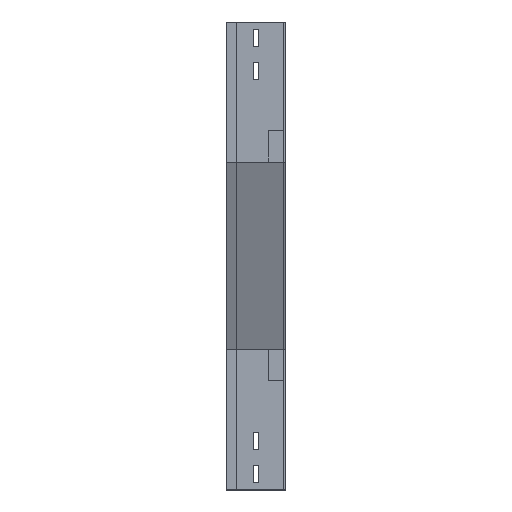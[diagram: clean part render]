
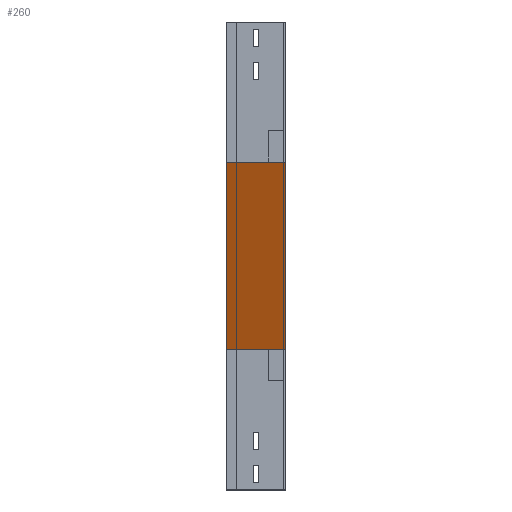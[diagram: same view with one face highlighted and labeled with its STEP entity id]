
A CAD part, left-side view. The second image highlights one B-rep face of the part: STEP entity #260.
In plain terms, the highlighted planar face has unit normal (-0.923, 0, -0.385).
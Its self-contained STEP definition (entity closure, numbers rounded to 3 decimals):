
#32 = VECTOR ( 'NONE', #247, 1000. ) ;
#247 = DIRECTION ( 'NONE',  ( 0.385, 0., -0.923 ) ) ;
#260 = ADVANCED_FACE ( 'NONE', ( #3321 ), #535, .F. ) ;
#262 = CARTESIAN_POINT ( 'NONE',  ( 0., 0., -180. ) ) ;
#296 = DIRECTION ( 'NONE',  ( 0.385, 0., -0.923 ) ) ;
#331 = ORIENTED_EDGE ( 'NONE', *, *, #2294, .F. ) ;
#446 = LINE ( 'NONE', #1495, #1018 ) ;
#535 = PLANE ( 'NONE',  #2571 ) ;
#611 = LINE ( 'NONE', #1439, #1961 ) ;
#726 = ORIENTED_EDGE ( 'NONE', *, *, #2090, .T. ) ;
#762 = LINE ( 'NONE', #2777, #32 ) ;
#844 = CARTESIAN_POINT ( 'NONE',  ( 100., 75., -420. ) ) ;
#990 = EDGE_CURVE ( 'NONE', #2246, #2821, #1064, .T. ) ;
#1018 = VECTOR ( 'NONE', #2956, 1000. ) ;
#1064 = LINE ( 'NONE', #3568, #2296 ) ;
#1200 = DIRECTION ( 'NONE',  ( 0.385, 0., -0.923 ) ) ;
#1358 = EDGE_LOOP ( 'NONE', ( #1432, #331, #726, #2323 ) ) ;
#1432 = ORIENTED_EDGE ( 'NONE', *, *, #2918, .F. ) ;
#1439 = CARTESIAN_POINT ( 'NONE',  ( 0., 0., -180. ) ) ;
#1495 = CARTESIAN_POINT ( 'NONE',  ( 0., 0., -180. ) ) ;
#1606 = VERTEX_POINT ( 'NONE', #3470 ) ;
#1903 = DIRECTION ( 'NONE',  ( 0.923, 0., 0.385 ) ) ;
#1941 = VERTEX_POINT ( 'NONE', #2112 ) ;
#1961 = VECTOR ( 'NONE', #1200, 1000. ) ;
#2090 = EDGE_CURVE ( 'NONE', #1606, #2821, #762, .T. ) ;
#2112 = CARTESIAN_POINT ( 'NONE',  ( 0., 0., -180. ) ) ;
#2246 = VERTEX_POINT ( 'NONE', #2575 ) ;
#2294 = EDGE_CURVE ( 'NONE', #1606, #1941, #446, .T. ) ;
#2296 = VECTOR ( 'NONE', #2505, 1000. ) ;
#2323 = ORIENTED_EDGE ( 'NONE', *, *, #990, .F. ) ;
#2505 = DIRECTION ( 'NONE',  ( 0., 1., 0. ) ) ;
#2571 = AXIS2_PLACEMENT_3D ( 'NONE', #262, #1903, #296 ) ;
#2575 = CARTESIAN_POINT ( 'NONE',  ( 100., 0., -420. ) ) ;
#2777 = CARTESIAN_POINT ( 'NONE',  ( 0., 75., -180. ) ) ;
#2821 = VERTEX_POINT ( 'NONE', #844 ) ;
#2918 = EDGE_CURVE ( 'NONE', #1941, #2246, #611, .T. ) ;
#2956 = DIRECTION ( 'NONE',  ( 0., -1., 0. ) ) ;
#3321 = FACE_OUTER_BOUND ( 'NONE', #1358, .T. ) ;
#3470 = CARTESIAN_POINT ( 'NONE',  ( 0., 75., -180. ) ) ;
#3568 = CARTESIAN_POINT ( 'NONE',  ( 100., 0., -420. ) ) ;
